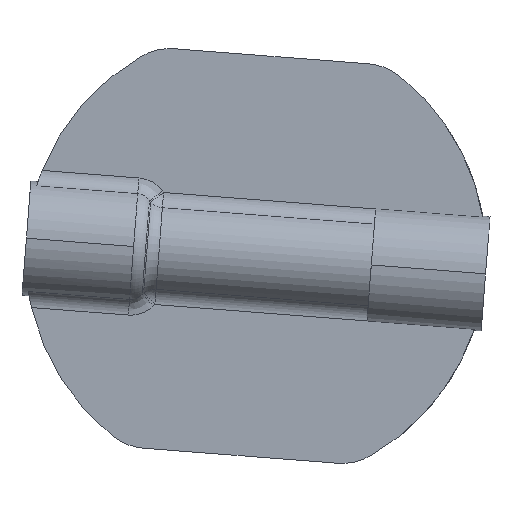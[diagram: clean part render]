
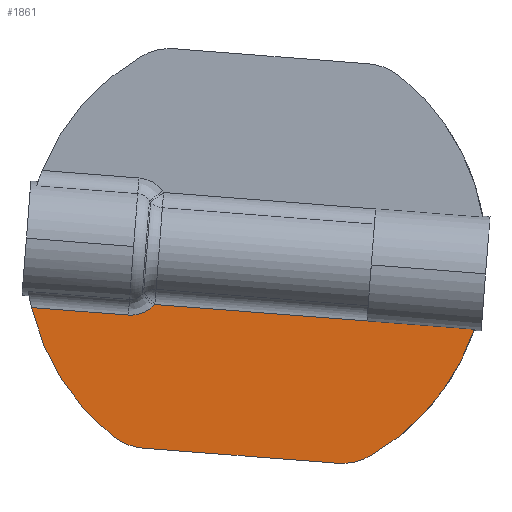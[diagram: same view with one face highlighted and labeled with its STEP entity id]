
A CAD part, front view. The second image highlights one B-rep face of the part: STEP entity #1861.
In plain terms, the highlighted planar face has unit normal (0, -1, 0).
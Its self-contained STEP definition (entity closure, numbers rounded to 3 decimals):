
#1=DIRECTION('',(0.997,0.,-0.077));
#2=VECTOR('',#1,18.559);
#3=CARTESIAN_POINT('',(539.553,-1.,140.965));
#4=LINE('',#3,#2);
#5=DIRECTION('',(0.997,0.,-0.077));
#6=VECTOR('',#5,9.394);
#7=CARTESIAN_POINT('',(558.056,-1.,139.53));
#8=LINE('',#7,#6);
#9=CARTESIAN_POINT('',(555.87,-1.,132.098));
#10=DIRECTION('',(0.,-1.,0.));
#11=DIRECTION('',(-0.077,0.,-0.997));
#12=AXIS2_PLACEMENT_3D('',#9,#10,#11);
#14=DIRECTION('',(-0.997,0.,0.077));
#15=VECTOR('',#14,16.971);
#16=CARTESIAN_POINT('',(555.484,-1.,127.113));
#17=LINE('',#16,#15);
#18=CARTESIAN_POINT('',(538.95,-1.,133.41));
#19=DIRECTION('',(0.,-1.,0.));
#20=DIRECTION('',(-0.625,0.,-0.781));
#21=AXIS2_PLACEMENT_3D('',#18,#19,#20);
#23=DIRECTION('',(0.997,0.,-0.077));
#24=VECTOR('',#23,8.462);
#25=CARTESIAN_POINT('',(528.795,-1.,140.695));
#26=LINE('',#25,#24);
#27=CARTESIAN_POINT('',(537.232,-1.,140.041));
#28=CARTESIAN_POINT('',(537.346,-1.,140.032));
#29=CARTESIAN_POINT('',(537.57,-1.,140.029));
#30=CARTESIAN_POINT('',(537.894,-1.,140.062));
#31=CARTESIAN_POINT('',(538.217,-1.,140.134));
#32=CARTESIAN_POINT('',(538.531,-1.,140.245));
#33=CARTESIAN_POINT('',(538.836,-1.,140.394));
#34=CARTESIAN_POINT('',(539.138,-1.,140.59));
#35=CARTESIAN_POINT('',(539.329,-1.,140.75));
#36=CARTESIAN_POINT('',(539.421,-1.,140.839));
#38=CARTESIAN_POINT('',(539.421,-1.,140.839));
#39=CARTESIAN_POINT('',(539.436,-1.,140.853));
#40=CARTESIAN_POINT('',(539.465,-1.,140.88));
#41=CARTESIAN_POINT('',(539.509,-1.,140.923));
#42=CARTESIAN_POINT('',(539.538,-1.,140.951));
#43=CARTESIAN_POINT('',(539.553,-1.,140.965));
#220=CARTESIAN_POINT('',(548.375,-1.,145.195));
#221=DIRECTION('',(0.,-1.,0.));
#222=DIRECTION('',(-0.975,0.,-0.224));
#223=AXIS2_PLACEMENT_3D('',#220,#221,#222);
#1140=CARTESIAN_POINT('',(548.375,-1.,145.195));
#1141=DIRECTION('',(0.,-1.,0.));
#1142=DIRECTION('',(0.497,0.,-0.868));
#1143=AXIS2_PLACEMENT_3D('',#1140,#1141,#1142);
#1648=CARTESIAN_POINT('',(555.484,-1.,127.113));
#1649=CARTESIAN_POINT('',(558.354,-1.,127.758));
#1650=VERTEX_POINT('',#1648);
#1651=VERTEX_POINT('',#1649);
#1664=CARTESIAN_POINT('',(535.828,-1.,129.505));
#1665=CARTESIAN_POINT('',(538.564,-1.,128.424));
#1666=VERTEX_POINT('',#1664);
#1667=VERTEX_POINT('',#1665);
#1687=CARTESIAN_POINT('',(558.056,-1.,139.53));
#1689=VERTEX_POINT('',#1687);
#1690=CARTESIAN_POINT('',(539.553,-1.,140.965));
#1691=VERTEX_POINT('',#1690);
#1696=VERTEX_POINT('',#38);
#1702=CARTESIAN_POINT('',(528.795,-1.,140.695));
#1703=CARTESIAN_POINT('',(537.232,-1.,140.041));
#1704=VERTEX_POINT('',#1702);
#1705=VERTEX_POINT('',#1703);
#1760=CARTESIAN_POINT('',(567.421,-1.,138.804));
#1761=VERTEX_POINT('',#1760);
#1834=CARTESIAN_POINT('',(0.,-1.,0.));
#1835=DIRECTION('',(0.,1.,0.));
#1836=DIRECTION('',(1.,0.,0.));
#1837=AXIS2_PLACEMENT_3D('',#1834,#1835,#1836);
#1838=PLANE('',#1837);
#1840=ORIENTED_EDGE('',*,*,#1839,.T.);
#1842=ORIENTED_EDGE('',*,*,#1841,.T.);
#1844=ORIENTED_EDGE('',*,*,#1843,.F.);
#1846=ORIENTED_EDGE('',*,*,#1845,.F.);
#1848=ORIENTED_EDGE('',*,*,#1847,.T.);
#1850=ORIENTED_EDGE('',*,*,#1849,.F.);
#1852=ORIENTED_EDGE('',*,*,#1851,.F.);
#1854=ORIENTED_EDGE('',*,*,#1853,.T.);
#1856=ORIENTED_EDGE('',*,*,#1855,.T.);
#1858=ORIENTED_EDGE('',*,*,#1857,.T.);
#1859=EDGE_LOOP('',(#1840,#1842,#1844,#1846,#1848,#1850,#1852,#1854,#1856,
#1858));
#1860=FACE_OUTER_BOUND('',#1859,.F.);
#1861=ADVANCED_FACE('',(#1860),#1838,.F.);
#13=CIRCLE('',#12,5.);
#22=CIRCLE('',#21,5.);
#37=B_SPLINE_CURVE_WITH_KNOTS('',3,(#27,#28,#29,#30,#31,#32,#33,#34,#35,#36),
.UNSPECIFIED.,.F.,.F.,(4,1,1,1,1,1,1,4),(0.,0.143,
0.286,0.429,0.571,0.714,
0.857,1.),.UNSPECIFIED.);
#44=B_SPLINE_CURVE_WITH_KNOTS('',3,(#38,#39,#40,#41,#42,#43),.UNSPECIFIED.,.F.,
.F.,(4,1,1,4),(0.,0.333,0.667,1.),.UNSPECIFIED.);
#224=CIRCLE('',#223,20.09);
#1144=CIRCLE('',#1143,20.09);
#1839=EDGE_CURVE('',#1691,#1689,#4,.T.);
#1841=EDGE_CURVE('',#1689,#1761,#8,.T.);
#1843=EDGE_CURVE('',#1651,#1761,#1144,.T.);
#1845=EDGE_CURVE('',#1650,#1651,#13,.T.);
#1847=EDGE_CURVE('',#1650,#1667,#17,.T.);
#1849=EDGE_CURVE('',#1666,#1667,#22,.T.);
#1851=EDGE_CURVE('',#1704,#1666,#224,.T.);
#1853=EDGE_CURVE('',#1704,#1705,#26,.T.);
#1855=EDGE_CURVE('',#1705,#1696,#37,.T.);
#1857=EDGE_CURVE('',#1696,#1691,#44,.T.);
